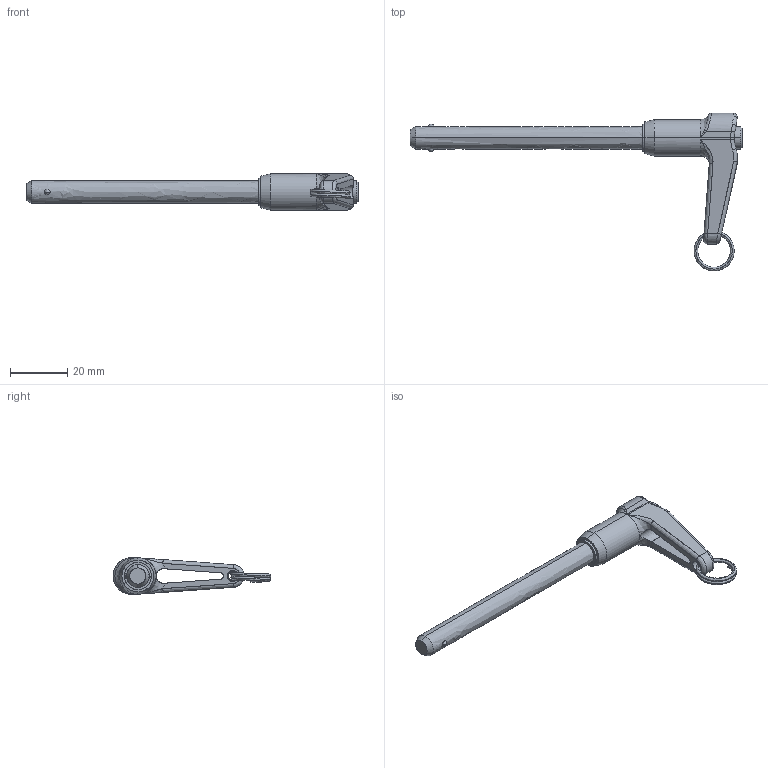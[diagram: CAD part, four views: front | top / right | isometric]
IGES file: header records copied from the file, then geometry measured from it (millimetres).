
Start section: SolidWorks IGES file using analytic representation for surfaces
Global section: file name: C:\Documents and Settings\IANO\My Documents\Wix and Auto CAD Work\CAD Models\Parametric Models\Wix Models\30000\33620_v2\33620_v2_20160606_IGES\33620.C029.igs; native system: SolidWorks 2009; preprocessor: SolidWorks 2009; author: IANO; date: 160615.125903; units: inch
Bounding box: 115.91 x 55.09 x 12.7 mm (x, y, z)
Surface area: 6778.8 mm2 (no closed solid volume)
Topology: 0 solids, 0 shells, 85 faces, 1226 edges, 1224 vertices
Faces by surface type: bspline 55, revolution 30
